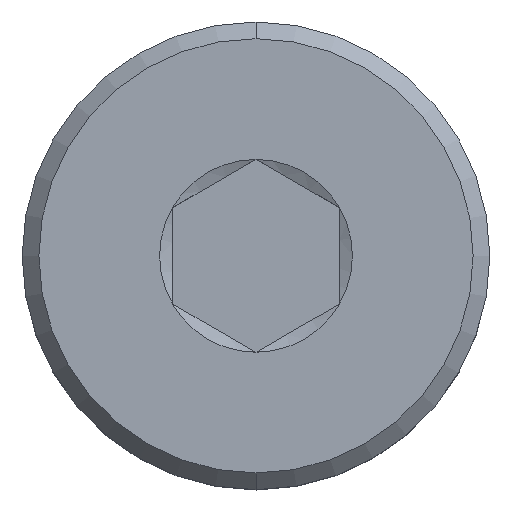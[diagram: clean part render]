
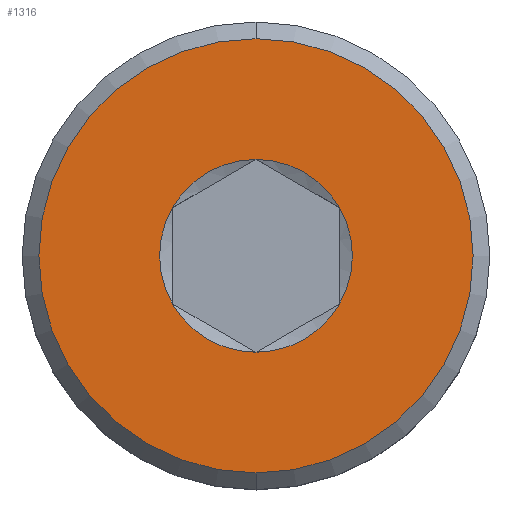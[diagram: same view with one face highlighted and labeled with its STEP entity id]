
A CAD part, top view. The second image highlights one B-rep face of the part: STEP entity #1316.
In plain terms, the highlighted planar face has unit normal (0, 0, 1).
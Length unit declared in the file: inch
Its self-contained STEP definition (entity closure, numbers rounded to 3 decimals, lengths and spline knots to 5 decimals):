
#4 = CARTESIAN_POINT ( 'NONE',  ( -0.04921, -0.02841, 0. ) ) ;
#65 = AXIS2_PLACEMENT_3D ( 'NONE', #463, #3672, #1212 ) ;
#142 = CARTESIAN_POINT ( 'NONE',  ( 0., 0.12795, 0. ) ) ;
#151 = DIRECTION ( 'NONE',  ( 0., 0., 1. ) ) ;
#247 = EDGE_CURVE ( 'NONE', #5569, #9098, #2010, .T. ) ;
#331 = CARTESIAN_POINT ( 'NONE',  ( 0.04921, 0.02841, 0. ) ) ;
#463 = CARTESIAN_POINT ( 'NONE',  ( 0., 0., 0. ) ) ;
#584 = CIRCLE ( 'NONE', #5545, 0.05683 ) ;
#612 = FACE_OUTER_BOUND ( 'NONE', #10285, .T. ) ;
#686 = ORIENTED_EDGE ( 'NONE', *, *, #8420, .F. ) ;
#767 = VERTEX_POINT ( 'NONE', #6499 ) ;
#939 = DIRECTION ( 'NONE',  ( 0., 0., 1. ) ) ;
#987 = DIRECTION ( 'NONE',  ( 0., -1., 0. ) ) ;
#1158 = CARTESIAN_POINT ( 'NONE',  ( 0., 0.05683, 0. ) ) ;
#1212 = DIRECTION ( 'NONE',  ( 0., 1., 0. ) ) ;
#1316 = ADVANCED_FACE ( 'NONE', ( #7771, #612 ), #2673, .T. ) ;
#1455 = VERTEX_POINT ( 'NONE', #9503 ) ;
#1918 = AXIS2_PLACEMENT_3D ( 'NONE', #9833, #4910, #9799 ) ;
#1994 = DIRECTION ( 'NONE',  ( 0., 0., -1. ) ) ;
#2010 = CIRCLE ( 'NONE', #9200, 0.05683 ) ;
#2013 = EDGE_CURVE ( 'NONE', #5519, #1455, #5823, .T. ) ;
#2130 = CIRCLE ( 'NONE', #1918, 0.05683 ) ;
#2191 = ORIENTED_EDGE ( 'NONE', *, *, #9430, .F. ) ;
#2673 = PLANE ( 'NONE',  #8059 ) ;
#2698 = EDGE_CURVE ( 'NONE', #7860, #5569, #2130, .T. ) ;
#2707 = DIRECTION ( 'NONE',  ( 0., -1., 0. ) ) ;
#2757 = DIRECTION ( 'NONE',  ( 0., -1., 0. ) ) ;
#3357 = CARTESIAN_POINT ( 'NONE',  ( -0.04921, 0.02841, 0. ) ) ;
#3399 = EDGE_CURVE ( 'NONE', #767, #7051, #7248, .T. ) ;
#3416 = VERTEX_POINT ( 'NONE', #1158 ) ;
#3422 = DIRECTION ( 'NONE',  ( 0., 0., 1. ) ) ;
#3672 = DIRECTION ( 'NONE',  ( 0., 0., -1. ) ) ;
#3768 = AXIS2_PLACEMENT_3D ( 'NONE', #6890, #1994, #7652 ) ;
#4269 = ORIENTED_EDGE ( 'NONE', *, *, #247, .F. ) ;
#4499 = CARTESIAN_POINT ( 'NONE',  ( 0., 0., 0. ) ) ;
#4506 = EDGE_LOOP ( 'NONE', ( #2191, #4269, #4517, #686, #6038, #5009 ) ) ;
#4517 = ORIENTED_EDGE ( 'NONE', *, *, #2698, .F. ) ;
#4910 = DIRECTION ( 'NONE',  ( 0., 0., 1. ) ) ;
#4919 = CIRCLE ( 'NONE', #3768, 0.12795 ) ;
#5009 = ORIENTED_EDGE ( 'NONE', *, *, #3399, .F. ) ;
#5018 = CARTESIAN_POINT ( 'NONE',  ( 0., 0., 0. ) ) ;
#5287 = CIRCLE ( 'NONE', #7265, 0.05683 ) ;
#5415 = AXIS2_PLACEMENT_3D ( 'NONE', #4499, #6697, #987 ) ;
#5513 = AXIS2_PLACEMENT_3D ( 'NONE', #8463, #7639, #2757 ) ;
#5519 = VERTEX_POINT ( 'NONE', #142 ) ;
#5545 = AXIS2_PLACEMENT_3D ( 'NONE', #6504, #9770, #9838 ) ;
#5569 = VERTEX_POINT ( 'NONE', #4 ) ;
#5823 = CIRCLE ( 'NONE', #65, 0.12795 ) ;
#6038 = ORIENTED_EDGE ( 'NONE', *, *, #9751, .F. ) ;
#6499 = CARTESIAN_POINT ( 'NONE',  ( 0.04921, -0.02841, 0. ) ) ;
#6504 = CARTESIAN_POINT ( 'NONE',  ( 0., 0., 0. ) ) ;
#6675 = CARTESIAN_POINT ( 'NONE',  ( 0., 0.12795, 0. ) ) ;
#6697 = DIRECTION ( 'NONE',  ( 0., 0., 1. ) ) ;
#6890 = CARTESIAN_POINT ( 'NONE',  ( 0., 0., 0. ) ) ;
#7051 = VERTEX_POINT ( 'NONE', #331 ) ;
#7248 = CIRCLE ( 'NONE', #5513, 0.05683 ) ;
#7265 = AXIS2_PLACEMENT_3D ( 'NONE', #8290, #151, #9127 ) ;
#7639 = DIRECTION ( 'NONE',  ( 0., 0., 1. ) ) ;
#7652 = DIRECTION ( 'NONE',  ( 0., 1., 0. ) ) ;
#7771 = FACE_BOUND ( 'NONE', #4506, .T. ) ;
#7860 = VERTEX_POINT ( 'NONE', #3357 ) ;
#8059 = AXIS2_PLACEMENT_3D ( 'NONE', #6675, #939, #2707 ) ;
#8290 = CARTESIAN_POINT ( 'NONE',  ( 0., 0., 0. ) ) ;
#8420 = EDGE_CURVE ( 'NONE', #3416, #7860, #584, .T. ) ;
#8463 = CARTESIAN_POINT ( 'NONE',  ( 0., 0., 0. ) ) ;
#8721 = CARTESIAN_POINT ( 'NONE',  ( 0., -0.05683, 0. ) ) ;
#8809 = EDGE_CURVE ( 'NONE', #1455, #5519, #4919, .T. ) ;
#8869 = ORIENTED_EDGE ( 'NONE', *, *, #2013, .F. ) ;
#9098 = VERTEX_POINT ( 'NONE', #8721 ) ;
#9127 = DIRECTION ( 'NONE',  ( 0., -1., 0. ) ) ;
#9185 = DIRECTION ( 'NONE',  ( 0., -1., 0. ) ) ;
#9200 = AXIS2_PLACEMENT_3D ( 'NONE', #5018, #3422, #9185 ) ;
#9430 = EDGE_CURVE ( 'NONE', #9098, #767, #10050, .T. ) ;
#9503 = CARTESIAN_POINT ( 'NONE',  ( 0., -0.12795, 0. ) ) ;
#9751 = EDGE_CURVE ( 'NONE', #7051, #3416, #5287, .T. ) ;
#9770 = DIRECTION ( 'NONE',  ( 0., 0., 1. ) ) ;
#9799 = DIRECTION ( 'NONE',  ( 0., -1., 0. ) ) ;
#9833 = CARTESIAN_POINT ( 'NONE',  ( 0., 0., 0. ) ) ;
#9838 = DIRECTION ( 'NONE',  ( 0., -1., 0. ) ) ;
#10050 = CIRCLE ( 'NONE', #5415, 0.05683 ) ;
#10285 = EDGE_LOOP ( 'NONE', ( #8869, #10538 ) ) ;
#10538 = ORIENTED_EDGE ( 'NONE', *, *, #8809, .F. ) ;
